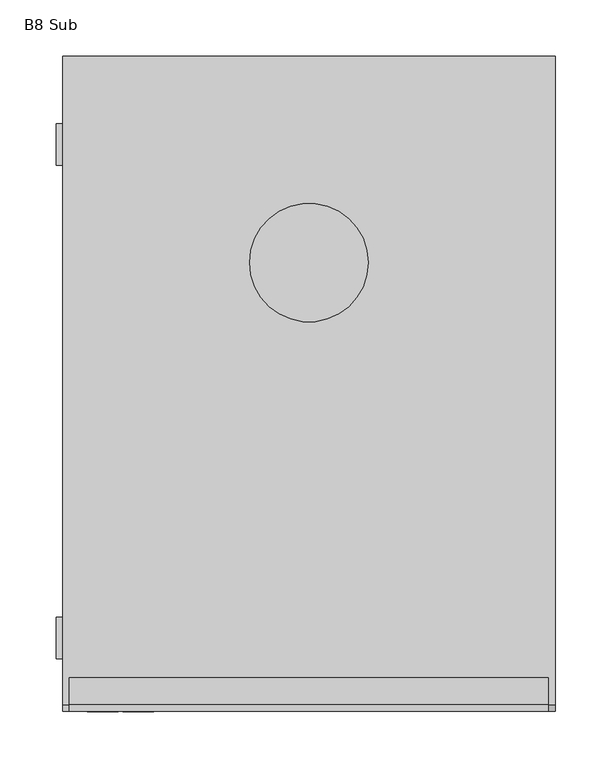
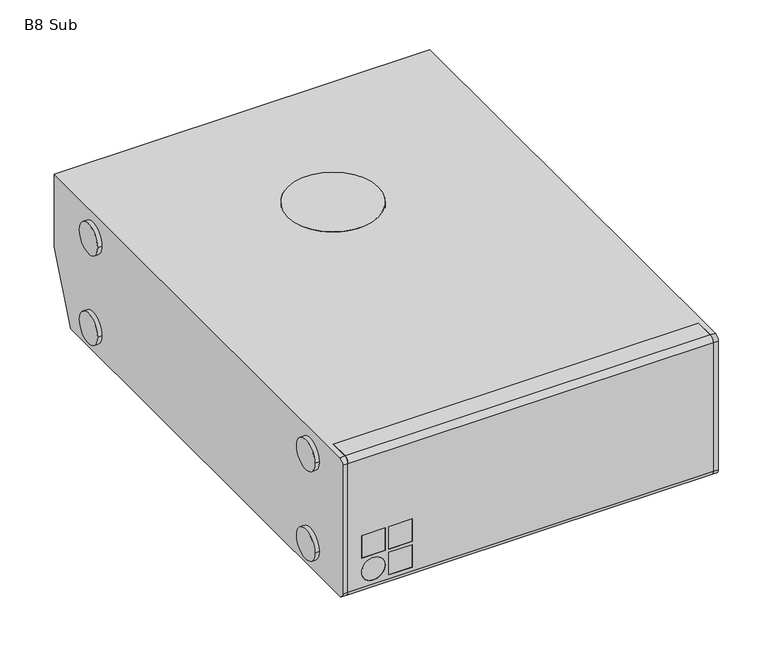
"""IFC4 building model written with IfcOpenShell, lengths in millimetres: proxy geometry, d&b B8 Subwoofer : B8 Sub."""

from ifc_helpers import new_model, si_unit, point, frame, frame_2d, origin, place, context, project, spatial, polyline, circle_curve, ellipse_curve, trimmed, segment, composite_curve, outline, extrude, source, transform, mapped, element, save
from ifc_brep_helpers import plane_surface, cylinder_surface, revolved_surface, advanced_brep


def b8_sub_eabcae69(model_context):
    return source(origin(), model_context, "Body", "SolidModel", [
        advanced_brep(
        [(212.0, -290.0, -76.25), (212.0, -284.0, -82.25), (212.0, -284.0, 87.75), (212.0, -290.0, 81.75), (-212.0, -290.0, -76.25), (-212.0, -290.0, 81.75), (-212.0, -284.0, 87.75), (-212.0, -284.0, -82.25), (-164.8089888, -290.0, -39.7780899), (-164.8089888, -290.0, -12.25), (-137.2808989, -290.0, -12.25), (-137.2808989, -290.0, -39.7780899), (-196.2696629, -290.0, -39.7780899), (-196.2696629, -290.0, -12.25), (-168.741573, -290.0, -12.25), (-168.741573, -290.0, -39.7780899), (-164.8089888, -290.0, -71.238764), (-164.8089888, -290.0, -43.7106742), (-137.2808989, -290.0, -43.7106742), (-137.2808989, -290.0, -71.238764), (-168.741573, -290.0, -57.4747191), (-196.2696629, -290.0, -57.4747191), (-164.8089888, -284.0, -12.25), (-164.8089888, -284.0, -39.7780899), (-137.2808989, -284.0, -39.7780899), (-137.2808989, -284.0, -12.25), (-196.2696629, -284.0, -12.25), (-196.2696629, -284.0, -39.7780899), (-168.741573, -284.0, -39.7780899), (-168.741573, -284.0, -12.25), (-164.8089888, -284.0, -43.7106742), (-164.8089888, -284.0, -71.238764), (-137.2808989, -284.0, -71.238764), (-137.2808989, -284.0, -43.7106742), (-196.2696629, -284.0, -57.4747191), (-168.741573, -284.0, -57.4747191)],
        [
            (0, 1, circle_curve(frame((212.0, -284.0, -76.25), z_axis=(1.0, 0.0, 0.0), x_axis=(0.0, 1.0, 0.0)), 6.0)),
            (1, 2),
            (2, 3, circle_curve(frame((212.0, -284.0, 81.75), z_axis=(1.0, 0.0, 0.0), x_axis=(0.0, 1.0, 0.0)), 6.0)),
            (3, 0),
            (4, 5),
            (5, 6, circle_curve(frame((-212.0, -284.0, 81.75), z_axis=(-1.0, 0.0, 0.0), x_axis=(0.0, 1.0, 0.0)), 6.0)),
            (6, 7),
            (7, 4, circle_curve(frame((-212.0, -284.0, -76.25), z_axis=(-1.0, 0.0, 0.0), x_axis=(0.0, 1.0, 0.0)), 6.0)),
            (3, 5),
            (4, 0),
            (8, 9),
            (9, 10),
            (10, 11),
            (11, 8),
            (12, 13),
            (13, 14),
            (14, 15),
            (15, 12),
            (16, 17),
            (17, 18),
            (18, 19),
            (19, 16),
            (20, 21, circle_curve(frame((-182.505618, -290.0, -57.4747191), z_axis=(0.0, 1.0, 0.0), x_axis=(1.0, 0.0, 0.0)), 13.7640449)),
            (21, 20, circle_curve(frame((-182.505618, -290.0, -57.4747191), z_axis=(0.0, 1.0, 0.0), x_axis=(1.0, 0.0, 0.0)), 13.7640449)),
            (2, 6),
            (7, 1),
            (22, 23),
            (23, 24),
            (24, 25),
            (25, 22),
            (26, 27),
            (27, 28),
            (28, 29),
            (29, 26),
            (30, 31),
            (31, 32),
            (32, 33),
            (33, 30),
            (34, 35, circle_curve(frame((-182.505618, -284.0, -57.4747191), z_axis=(0.0, -1.0, 0.0), x_axis=(1.0, 0.0, 0.0)), 13.7640449)),
            (35, 34, circle_curve(frame((-182.505618, -284.0, -57.4747191), z_axis=(0.0, -1.0, 0.0), x_axis=(1.0, 0.0, 0.0)), 13.7640449)),
            (23, 8),
            (11, 24),
            (10, 25),
            (9, 22),
            (31, 16),
            (19, 32),
            (18, 33),
            (17, 30),
            (12, 27),
            (26, 13),
            (15, 28),
            (14, 29),
            (20, 35),
            (34, 21),
        ],
        [
            plane_surface(frame((212.0, -278.0, -76.25), z_axis=(1.0, 0.0, 0.0), x_axis=(0.0, 0.0, 1.0))),
            plane_surface(frame((-212.0, -278.0, -76.25), z_axis=(-1.0, 0.0, 0.0), x_axis=(0.0, 0.0, -1.0))),
            plane_surface(frame((212.0, -290.0, 81.75), z_axis=(0.0, -1.0, 0.0), x_axis=(-1.0, 0.0, 0.0))),
            cylinder_surface(frame((-212.0, -284.0, 81.75), z_axis=(1.0, 0.0, 0.0), x_axis=(0.0, 1.0, 0.0)), 6.0),
            cylinder_surface(frame((-212.0, -284.0, -76.25), z_axis=(1.0, 0.0, 0.0), x_axis=(0.0, 1.0, 0.0)), 6.0),
            plane_surface(frame((212.0, -284.0, -82.25), z_axis=(0.0, 1.0, 0.0), x_axis=(-1.0, 0.0, 0.0))),
            plane_surface(frame((-164.8089888, -290.0, -39.7780899), z_axis=(0.0, 0.0, 1.0), x_axis=(0.0, 1.0, 0.0))),
            plane_surface(frame((-137.2808989, -290.0, -39.7780899), z_axis=(-1.0, 0.0, 0.0), x_axis=(0.0, 1.0, 0.0))),
            plane_surface(frame((-137.2808989, -290.0, -12.25), z_axis=(0.0, 0.0, -1.0), x_axis=(0.0, 1.0, 0.0))),
            plane_surface(frame((-164.8089888, -290.0, -71.238764), z_axis=(0.0, 0.0, 1.0), x_axis=(0.0, 1.0, 0.0))),
            plane_surface(frame((-137.2808989, -290.0, -71.238764), z_axis=(-1.0, 0.0, 0.0), x_axis=(0.0, 1.0, 0.0))),
            plane_surface(frame((-137.2808989, -290.0, -43.7106742), z_axis=(0.0, 0.0, -1.0), x_axis=(0.0, 1.0, 0.0))),
            plane_surface(frame((-164.8089888, -290.0, -12.25), z_axis=(1.0, 0.0, 0.0), x_axis=(0.0, 1.0, 0.0))),
            plane_surface(frame((-196.2696629, -290.0, -12.25), z_axis=(1.0, 0.0, 0.0), x_axis=(0.0, 1.0, 0.0))),
            plane_surface(frame((-196.2696629, -290.0, -39.7780899), z_axis=(0.0, 0.0, 1.0), x_axis=(0.0, 1.0, 0.0))),
            plane_surface(frame((-168.741573, -290.0, -39.7780899), z_axis=(-1.0, 0.0, 0.0), x_axis=(0.0, 1.0, 0.0))),
            plane_surface(frame((-168.741573, -290.0, -12.25), z_axis=(0.0, 0.0, -1.0), x_axis=(0.0, 1.0, 0.0))),
            plane_surface(frame((-164.8089888, -290.0, -43.7106742), z_axis=(1.0, 0.0, 0.0), x_axis=(0.0, 1.0, 0.0))),
            revolved_surface(polyline([(-168.7415731, -290.0, -57.4747191), (-168.7415731, -284.0, -57.4747191)]), (-182.505618, -290.0, -57.4747191), (0.0, -1.0, 0.0)),
        ],
        [
            (0, [[1, 2, 3, 4]]),
            (1, [[5, 6, 7, 8]]),
            (2, [[-4, 9, -5, 10], [11, 12, 13, 14], [15, 16, 17, 18], [19, 20, 21, 22], [23, 24]]),
            (3, [[-3, 25, -6, -9]]),
            (4, [[-1, -10, -8, 26]]),
            (5, [[-2, -26, -7, -25], [27, 28, 29, 30], [31, 32, 33, 34], [35, 36, 37, 38], [39, 40]]),
            (6, [[41, -14, 42, -28]]),
            (7, [[-42, -13, 43, -29]]),
            (8, [[44, -30, -43, -12]]),
            (9, [[45, -22, 46, -36]]),
            (10, [[-46, -21, 47, -37]]),
            (11, [[48, -38, -47, -20]]),
            (12, [[-41, -27, -44, -11]]),
            (13, [[49, -31, 50, -15]]),
            (14, [[-49, -18, 51, -32]]),
            (15, [[-51, -17, 52, -33]]),
            (16, [[-50, -34, -52, -16]]),
            (17, [[-45, -35, -48, -19]]),
            (18, [[53, -39, 54, -23]]),
            (18, [[-53, -24, -54, -40]]),
        ],
    ),
        extrude(outline(polyline([(-137.2808989, -290.0), (-164.8089888, -290.0), (-164.8089888, -284.0), (-137.2808989, -284.0), (-137.2808989, -290.0)])), frame((0.0, 0.0, -39.7780899), z_axis=(0.0, 0.0, 1.0), x_axis=(1.0, 0.0, 0.0)), (0.0, 0.0, 1.0), 27.5280899),
        extrude(outline(polyline([(-168.741573, -290.0), (-196.2696629, -290.0), (-196.2696629, -284.0), (-168.741573, -284.0), (-168.741573, -290.0)])), frame((0.0, 0.0, -39.7780899), z_axis=(0.0, 0.0, 1.0), x_axis=(1.0, 0.0, 0.0)), (0.0, 0.0, 1.0), 27.5280899),
        extrude(outline(polyline([(-137.2808989, -290.0), (-164.8089888, -290.0), (-164.8089888, -284.0), (-137.2808989, -284.0), (-137.2808989, -290.0)])), frame((0.0, 0.0, -71.238764), z_axis=(0.0, 0.0, 1.0), x_axis=(1.0, 0.0, 0.0)), (0.0, 0.0, 1.0), 27.5280899),
        extrude(outline(composite_curve([segment(trimmed(circle_curve(frame_2d((-57.4747191, -182.505618)), 13.7640449), [point((-57.4747191, -196.2696629))], [point((-57.4747191, -168.741573))], False, "CARTESIAN"), True, "CONTINUOUS"), segment(trimmed(circle_curve(frame_2d((-57.4747191, -182.505618)), 13.7640449), [point((-57.4747191, -168.741573))], [point((-57.4747191, -196.2696629))], False, "CARTESIAN"), True, "CONTINUOUS")], self_intersect=False)), frame((0.0, -290.0, 0.0), z_axis=(0.0, 1.0, 0.0), x_axis=(0.0, 0.0, 1.0)), (0.0, 0.0, 1.0), 6.0),
        extrude(outline(polyline([(212.0, -260.0), (212.0, -284.0), (-212.0, -284.0), (-212.0, -260.0), (212.0, -260.0)])), frame((0.0, 0.0, -82.25), z_axis=(0.0, 0.0, 1.0), x_axis=(1.0, 0.0, 0.0)), (0.0, 0.0, 1.0), 170.0),
        extrude(outline(composite_curve([segment(trimmed(circle_curve(frame_2d((0.0, 107.5)), 52.5), [point((52.5, 107.5))], [point((-52.5, 107.5))], False, "CARTESIAN"), True, "CONTINUOUS"), segment(trimmed(circle_curve(frame_2d((0.0, 107.5)), 52.5), [point((-52.5, 107.5))], [point((52.5, 107.5))], False, "CARTESIAN"), True, "CONTINUOUS")], self_intersect=False)), frame((0.0, 0.0, 77.75), z_axis=(0.0, 0.0, 1.0), x_axis=(1.0, 0.0, 0.0)), (0.0, 0.0, 1.0), 10.0),
        advanced_brep(
        [(212.0, -260.0, -82.25), (-212.0, -260.0, -82.25), (-212.0, -284.0, -82.25), (-218.0, -284.0, -82.25), (-218.0, 257.2738757, -82.25), (218.0, 257.2738757, -82.25), (218.0, -284.0, -82.25), (212.0, -284.0, -82.25), (-218.0, 290.0, -1.25), (-58.4448475, 290.0, -1.25), (-58.4448475, 289.2718385, -3.0522628), (-58.4448475, 270.9729113, -48.3436972), (-46.4448475, 266.1245966, -60.3436972), (45.487267, 266.1245966, -60.3436972), (57.487267, 270.9729113, -48.3436972), (57.487267, 289.2718385, -3.0522628), (57.487267, 290.0, -1.25), (218.0, 290.0, -1.25), (-218.0, 290.0, 87.75), (218.0, 290.0, 87.75), (57.487267, 290.0, 0.6938031), (57.487267, 290.0, 47.4846055), (45.487267, 290.0, 59.4846055), (-46.4448475, 290.0, 59.4846055), (-58.4448475, 290.0, 47.4846055), (-58.4448475, 290.0, 0.6938031), (-212.0, -260.0, 87.75), (212.0, -260.0, 87.75), (212.0, -284.0, 87.75), (218.0, -284.0, 87.75), (-218.0, -284.0, 87.75), (-212.0, -284.0, 87.75), (-52.5, 107.5, 87.75), (52.5, 107.5, 87.75), (-212.0, -290.0, 81.75), (-212.0, -290.0, -76.25), (-218.0, -290.0, -76.25), (-218.0, -290.0, 81.75), (212.0, -290.0, -76.25), (212.0, -290.0, 81.75), (218.0, -290.0, 81.75), (218.0, -290.0, -76.25), (52.5, 107.5, 77.75), (-52.5, 107.5, 77.75), (45.487267, 256.954574, -60.3436972), (-46.4448475, 256.954574, -60.3436972), (-56.6650566, 256.954574, -54.6323637), (55.7074761, 256.954574, -54.6323637), (-46.4448475, 256.954574, 59.4846055), (45.487267, 256.954574, 59.4846055), (51.3483362, 256.954574, 57.9558933), (-52.3059167, 256.954574, 57.9558933), (58.4448475, 256.954574, 57.9558933), (58.4448475, 256.954574, -54.6323637), (58.4448475, 211.6877968, -36.3433986), (58.4448475, 250.7929844, 60.4453371), (-58.4448475, 250.7929844, 60.4453371), (-58.4448475, 256.954574, 57.9558933), (-58.4448475, 211.6877968, -36.3433986), (-58.4448475, 256.954574, -54.6323637), (57.487267, 256.954574, 47.4846055), (57.487267, 256.954574, -48.3436972), (-58.4448475, 256.954574, 47.4846055), (-58.4448475, 256.954574, -48.3436972)],
        [
            (0, 1),
            (1, 2),
            (2, 3),
            (3, 4),
            (4, 5),
            (5, 6),
            (6, 7),
            (7, 0),
            (4, 8),
            (8, 9),
            (9, 10),
            (10, 11),
            (11, 12, ellipse_curve(frame((-46.4448475, 270.9729113, -48.3436972), z_axis=(0.0, -0.9271838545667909, 0.3746065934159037), x_axis=(0.0, 0.37460659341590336, 0.927183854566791)), 12.9424169, 12.0)),
            (12, 13),
            (13, 14, ellipse_curve(frame((45.487267, 270.9729113, -48.3436972), z_axis=(0.0, -0.9271838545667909, 0.3746065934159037), x_axis=(0.0, 0.37460659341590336, 0.927183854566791)), 12.9424169, 12.0)),
            (14, 15),
            (15, 16),
            (16, 17),
            (17, 5),
            (8, 18),
            (18, 19),
            (19, 17),
            (16, 20),
            (20, 21),
            (21, 22, circle_curve(frame((45.487267, 290.0, 47.4846055), z_axis=(0.0, -1.0, 0.0), x_axis=(-1.0, 0.0, 0.0)), 12.0)),
            (22, 23),
            (23, 24, circle_curve(frame((-46.4448475, 290.0, 47.4846055), z_axis=(0.0, -1.0, 0.0), x_axis=(-1.0, 0.0, 0.0)), 12.0)),
            (24, 25),
            (25, 9),
            (26, 27),
            (27, 28),
            (28, 29),
            (29, 19),
            (18, 30),
            (30, 31),
            (31, 26),
            (32, 33, circle_curve(frame((0.0, 107.5, 87.75), z_axis=(0.0, 0.0, -1.0), x_axis=(-1.0, 0.0, 0.0)), 52.5)),
            (33, 32, circle_curve(frame((0.0, 107.5, 87.75), z_axis=(0.0, 0.0, -1.0), x_axis=(-1.0, 0.0, 0.0)), 52.5)),
            (0, 27),
            (26, 1),
            (31, 34, circle_curve(frame((-212.0, -284.0, 81.75), z_axis=(1.0, 0.0, 0.0), x_axis=(0.0, 1.0, 0.0)), 6.0)),
            (34, 35),
            (35, 2, circle_curve(frame((-212.0, -284.0, -76.25), z_axis=(1.0, 0.0, 0.0), x_axis=(0.0, 1.0, 0.0)), 6.0)),
            (3, 36, circle_curve(frame((-218.0, -284.0, -76.25), z_axis=(-1.0, 0.0, 0.0), x_axis=(0.0, 1.0, 0.0)), 6.0)),
            (36, 37),
            (37, 30, circle_curve(frame((-218.0, -284.0, 81.75), z_axis=(-1.0, 0.0, 0.0), x_axis=(0.0, 1.0, 0.0)), 6.0)),
            (34, 37),
            (36, 35),
            (7, 38, circle_curve(frame((212.0, -284.0, -76.25), z_axis=(-1.0, 0.0, 0.0), x_axis=(0.0, 1.0, 0.0)), 6.0)),
            (38, 39),
            (39, 28, circle_curve(frame((212.0, -284.0, 81.75), z_axis=(-1.0, 0.0, 0.0), x_axis=(0.0, 1.0, 0.0)), 6.0)),
            (29, 40, circle_curve(frame((218.0, -284.0, 81.75), z_axis=(1.0, 0.0, 0.0), x_axis=(0.0, 1.0, 0.0)), 6.0)),
            (40, 41),
            (41, 6, circle_curve(frame((218.0, -284.0, -76.25), z_axis=(1.0, 0.0, 0.0), x_axis=(0.0, 1.0, 0.0)), 6.0)),
            (38, 41),
            (40, 39),
            (42, 43, circle_curve(frame((0.0, 107.5, 77.75), z_axis=(0.0, 0.0, 1.0), x_axis=(-1.0, 0.0, 0.0)), 52.5)),
            (43, 42, circle_curve(frame((0.0, 107.5, 77.75), z_axis=(0.0, 0.0, 1.0), x_axis=(-1.0, 0.0, 0.0)), 52.5)),
            (42, 33),
            (32, 43),
            (44, 45),
            (45, 46, circle_curve(frame((-46.4448475, 256.954574, -48.3436972), z_axis=(0.0, 1.0, 0.0), x_axis=(-1.0, 0.0, 0.0)), 12.0)),
            (46, 47),
            (47, 44, circle_curve(frame((45.487267, 256.954574, -48.3436972), z_axis=(0.0, 1.0, 0.0), x_axis=(-1.0, 0.0, 0.0)), 12.0)),
            (48, 49),
            (49, 50, circle_curve(frame((45.487267, 256.954574, 47.4846055), z_axis=(0.0, 1.0, 0.0), x_axis=(-1.0, 0.0, 0.0)), 12.0)),
            (50, 51),
            (51, 48, circle_curve(frame((-46.4448475, 256.954574, 47.4846055), z_axis=(0.0, 1.0, 0.0), x_axis=(-1.0, 0.0, 0.0)), 12.0)),
            (44, 13),
            (12, 45),
            (48, 23),
            (22, 49),
            (52, 53),
            (53, 54),
            (54, 55),
            (55, 52),
            (55, 56),
            (56, 57),
            (57, 51),
            (50, 52),
            (54, 58),
            (58, 56),
            (53, 47),
            (46, 59),
            (59, 58),
            (50, 60, circle_curve(frame((45.487267, 256.954574, 47.4846055), z_axis=(0.0, 1.0, 0.0), x_axis=(-1.0, 0.0, 0.0)), 12.0)),
            (60, 61),
            (61, 47, circle_curve(frame((45.487267, 256.954574, -48.3436972), z_axis=(0.0, 1.0, 0.0), x_axis=(-1.0, 0.0, 0.0)), 12.0)),
            (57, 62),
            (62, 51, circle_curve(frame((-46.4448475, 256.954574, 47.4846055), z_axis=(0.0, 1.0, 0.0), x_axis=(-1.0, 0.0, 0.0)), 12.0)),
            (63, 59),
            (46, 63, circle_curve(frame((-46.4448475, 256.954574, -48.3436972), z_axis=(0.0, 1.0, 0.0), x_axis=(-1.0, 0.0, 0.0)), 12.0)),
            (60, 21),
            (14, 61),
            (11, 63),
            (24, 62),
        ],
        [
            plane_surface(frame((212.0, -260.0, -82.25), z_axis=(0.0, 0.0, -1.0), x_axis=(-1.0, 0.0, 0.0))),
            plane_surface(frame((212.0, 257.2738757, -82.25), z_axis=(0.0, 0.9271838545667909, -0.3746065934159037), x_axis=(-1.0, 0.0, 0.0))),
            plane_surface(frame((212.0, 290.0, -1.25), z_axis=(0.0, 1.0, 0.0), x_axis=(-1.0, 0.0, 0.0))),
            plane_surface(frame((212.0, 290.0, 87.75), z_axis=(0.0, 0.0, 1.0), x_axis=(-1.0, 0.0, 0.0))),
            plane_surface(frame((212.0, -260.0, 87.75), z_axis=(0.0, -1.0, 0.0), x_axis=(-1.0, 0.0, 0.0))),
            plane_surface(frame((-212.0, -278.0, 81.75), z_axis=(1.0, 0.0, 0.0), x_axis=(0.0, 0.0, 1.0))),
            plane_surface(frame((-218.0, -278.0, 81.75), z_axis=(-1.0, 0.0, 0.0), x_axis=(0.0, 0.0, -1.0))),
            plane_surface(frame((-212.0, -290.0, 81.75), z_axis=(0.0, -1.0, 0.0), x_axis=(-1.0, 0.0, 0.0))),
            cylinder_surface(frame((-218.0, -284.0, 81.75), z_axis=(1.0, 0.0, 0.0), x_axis=(0.0, 1.0, 0.0)), 6.0),
            cylinder_surface(frame((-218.0, -284.0, -76.25), z_axis=(1.0, 0.0, 0.0), x_axis=(0.0, 1.0, 0.0)), 6.0),
            plane_surface(frame((212.0, 264.0, 87.75), z_axis=(-1.0, 0.0, 0.0), x_axis=(0.0, 1.0, 0.0))),
            plane_surface(frame((218.0, 264.0, 87.75), z_axis=(1.0, 0.0, 0.0), x_axis=(0.0, -1.0, 0.0))),
            plane_surface(frame((212.0, -290.0, -76.25), z_axis=(0.0, -1.0, 0.0), x_axis=(1.0, 0.0, 0.0))),
            cylinder_surface(frame((218.0, -284.0, -76.25), z_axis=(-1.0, 0.0, 0.0), x_axis=(0.0, 1.0, 0.0)), 6.0),
            cylinder_surface(frame((218.0, -284.0, 81.75), z_axis=(-1.0, 0.0, 0.0), x_axis=(0.0, 1.0, 0.0)), 6.0),
            plane_surface(frame((-52.5, 107.5, 77.75), z_axis=(0.0, 0.0, 1.0), x_axis=(0.0, 1.0, 0.0))),
            revolved_surface(polyline([(-52.5, 107.5, 87.75), (-52.5, 107.5, 77.75)]), (0.0, 107.5, 77.75), (0.0, 0.0, 1.0)),
            plane_surface(frame((33.487267, 256.954574, 47.4846055), z_axis=(0.0, 1.0, 0.0), x_axis=(0.0, 0.0, -1.0))),
            plane_surface(frame((45.487267, 290.0, -60.3436972), z_axis=(0.0, 0.0, 1.0), x_axis=(0.0, -1.0, 0.0))),
            plane_surface(frame((-46.4448475, 290.0, 59.4846055), z_axis=(0.0, 0.0, -1.0), x_axis=(0.0, -1.0, 0.0))),
            plane_surface(frame((58.4448475, 250.7929844, 60.4453371), z_axis=(-1.0000000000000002, 0.0, 0.0), x_axis=(0.0, -0.9271838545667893, 0.3746065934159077))),
            plane_surface(frame((58.4448475, 256.954574, 57.9558933), z_axis=(0.0, -0.3746065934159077, -0.9271838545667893), x_axis=(-1.0, 0.0, 0.0))),
            plane_surface(frame((58.4448475, 250.7929844, 60.4453371), z_axis=(0.0, 0.92718385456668, -0.37460659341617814), x_axis=(-1.0, 0.0, 0.0))),
            plane_surface(frame((58.4448475, 211.6877968, -36.3433986), z_axis=(0.0, 0.3746065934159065, 0.9271838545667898), x_axis=(-1.0, 0.0, 0.0))),
            plane_surface(frame((58.4448475, 256.954574, -54.6323637), z_axis=(0.0, -1.0, 0.0), x_axis=(-1.0, 0.0, 0.0))),
            plane_surface(frame((57.487267, 290.0, 47.4846055), z_axis=(-1.0, 0.0, 0.0), x_axis=(0.0, -1.0, 0.0))),
            revolved_surface(polyline([(33.487267, 275.82122600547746, -48.3436972), (33.487267, 256.954574, -48.3436972)]), (45.487267, 256.954574, -48.3436972), (0.0, 1.0, 0.0)),
            revolved_surface(polyline([(-58.4448475, 275.82122600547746, -48.3436972), (-58.4448475, 256.954574, -48.3436972)]), (-46.4448475, 256.954574, -48.3436972), (0.0, 1.0, 0.0)),
            plane_surface(frame((-58.4448475, 290.0, -48.3436972), z_axis=(1.0, 0.0, 0.0), x_axis=(0.0, -1.0, 0.0))),
            revolved_surface(polyline([(33.487267, 290.0, 47.4846055), (33.487267, 256.954574, 47.4846055)]), (45.487267, 256.954574, 47.4846055), (0.0, 1.0, 0.0)),
            revolved_surface(polyline([(-58.4448475, 290.0, 47.4846055), (-58.4448475, 256.954574, 47.4846055)]), (-46.4448475, 256.954574, 47.4846055), (0.0, 1.0, 0.0)),
        ],
        [
            (0, [[1, 2, 3, 4, 5, 6, 7, 8]]),
            (1, [[9, 10, 11, 12, 13, 14, 15, 16, 17, 18, 19, -5]]),
            (2, [[20, 21, 22, -18, 23, 24, 25, 26, 27, 28, 29, -10]]),
            (3, [[30, 31, 32, 33, -21, 34, 35, 36], [37, 38]]),
            (4, [[-1, 39, -30, 40]]),
            (5, [[41, 42, 43, -2, -40, -36]]),
            (6, [[-34, -20, -9, -4, 44, 45, 46]]),
            (7, [[-42, 47, -45, 48]]),
            (8, [[-41, -35, -46, -47]]),
            (9, [[-43, -48, -44, -3]]),
            (10, [[49, 50, 51, -31, -39, -8]]),
            (11, [[52, 53, 54, -6, -19, -22, -33]]),
            (12, [[-50, 55, -53, 56]]),
            (13, [[-49, -7, -54, -55]]),
            (14, [[-51, -56, -52, -32]]),
            (15, [[57, 58]]),
            (16, [[-57, 59, -37, 60]]),
            (16, [[-58, -60, -38, -59]]),
            (17, [[61, 62, 63, 64]]),
            (17, [[65, 66, 67, 68]]),
            (18, [[-61, 69, -14, 70]]),
            (19, [[-65, 71, -26, 72]]),
            (20, [[73, 74, 75, 76]]),
            (21, [[-76, 77, 78, 79, -67, 80]]),
            (22, [[-75, 81, 82, -77]]),
            (23, [[-74, 83, -63, 84, 85, -81]]),
            (24, [[-73, -80, 86, 87, 88, -83]]),
            (24, [[89, 90, -79]]),
            (24, [[91, -84, 92]]),
            (25, [[93, -24, -23, -17, -16, 94, -87]]),
            (26, [[-69, -64, -88, -94, -15]]),
            (27, [[-70, -13, 95, -92, -62]]),
            (28, [[96, -89, -78, -82, -85, -91, -95, -12, -11, -29, -28]]),
            (29, [[-72, -25, -93, -86, -66]]),
            (30, [[-71, -68, -90, -96, -27]]),
        ],
    ),
        extrude(outline(composite_curve([segment(trimmed(circle_curve(frame_2d((212.0, 57.75)), 18.25), [point((193.75, 57.75))], [point((230.25, 57.75))], False, "CARTESIAN"), True, "CONTINUOUS"), segment(trimmed(circle_curve(frame_2d((212.0, 57.75)), 18.25), [point((230.25, 57.75))], [point((193.75, 57.75))], False, "CARTESIAN"), True, "CONTINUOUS")], self_intersect=False)), frame((-223.5, 0.0, 0.0), z_axis=(1.0, 0.0, 0.0), x_axis=(0.0, 1.0, 0.0)), (0.0, 0.0, 1.0), 5.5),
        extrude(outline(composite_curve([segment(trimmed(circle_curve(frame_2d((212.0, -52.25)), 18.25), [point((193.75, -52.25))], [point((230.25, -52.25))], False, "CARTESIAN"), True, "CONTINUOUS"), segment(trimmed(circle_curve(frame_2d((212.0, -52.25)), 18.25), [point((230.25, -52.25))], [point((193.75, -52.25))], False, "CARTESIAN"), True, "CONTINUOUS")], self_intersect=False)), frame((-223.5, 0.0, 0.0), z_axis=(1.0, 0.0, 0.0), x_axis=(0.0, 1.0, 0.0)), (0.0, 0.0, 1.0), 5.5),
        extrude(outline(composite_curve([segment(trimmed(circle_curve(frame_2d((-225.0, 57.75)), 18.25), [point((-243.25, 57.75))], [point((-206.75, 57.75))], False, "CARTESIAN"), True, "CONTINUOUS"), segment(trimmed(circle_curve(frame_2d((-225.0, 57.75)), 18.25), [point((-206.75, 57.75))], [point((-243.25, 57.75))], False, "CARTESIAN"), True, "CONTINUOUS")], self_intersect=False)), frame((-223.5, 0.0, 0.0), z_axis=(1.0, 0.0, 0.0), x_axis=(0.0, 1.0, 0.0)), (0.0, 0.0, 1.0), 5.5),
        extrude(outline(composite_curve([segment(trimmed(circle_curve(frame_2d((-225.0, -52.25)), 18.25), [point((-243.25, -52.25))], [point((-206.75, -52.25))], False, "CARTESIAN"), True, "CONTINUOUS"), segment(trimmed(circle_curve(frame_2d((-225.0, -52.25)), 18.25), [point((-206.75, -52.25))], [point((-243.25, -52.25))], False, "CARTESIAN"), True, "CONTINUOUS")], self_intersect=False)), frame((-223.5, 0.0, 0.0), z_axis=(1.0, 0.0, 0.0), x_axis=(0.0, 1.0, 0.0)), (0.0, 0.0, 1.0), 5.5),
        advanced_brep(
        [(-58.4448475, 289.2718385, -3.0522628), (-48.4448475, 289.2718385, -3.0522628), (-48.4448475, 270.9729113, -48.3436972), (-46.4448475, 270.1648588, -50.3436972), (45.487267, 270.1648588, -50.3436972), (47.487267, 270.9729113, -48.3436972), (47.487267, 289.2718385, -3.0522628), (57.487267, 289.2718385, -3.0522628), (57.487267, 270.9729113, -48.3436972), (45.487267, 266.1245966, -60.3436972), (-46.4448475, 266.1245966, -60.3436972), (-58.4448475, 270.9729113, -48.3436972), (-48.4448475, 290.0, 0.6938031), (-58.4448475, 290.0, 0.6938031), (-58.4448475, 290.0, 47.4846055), (-46.4448475, 290.0, 59.4846055), (45.487267, 290.0, 59.4846055), (57.487267, 290.0, 47.4846055), (57.487267, 290.0, 0.6938031), (47.487267, 290.0, 0.6938031), (47.487267, 290.0, 47.4846055), (45.487267, 290.0, 49.4846055), (-46.4448475, 290.0, 49.4846055), (-48.4448475, 290.0, 47.4846055), (45.487267, 256.954574, 59.4846055), (-46.4448475, 256.954574, 59.4846055), (-58.4448475, 256.954574, 47.4846055), (-58.4448475, 256.954574, -48.3436972), (-46.4448475, 256.954574, -60.3436972), (45.487267, 256.954574, -60.3436972), (57.487267, 256.954574, -48.3436972), (57.487267, 256.954574, 47.4846055), (45.487267, 256.954574, 49.4846055), (47.487267, 256.954574, 47.4846055), (47.487267, 256.954574, -48.3436972), (45.487267, 256.954574, -50.3436972), (-46.4448475, 256.954574, -50.3436972), (-48.4448475, 256.954574, -48.3436972), (-48.4448475, 256.954574, 47.4846055), (-46.4448475, 256.954574, 49.4846055)],
        [
            (0, 1),
            (1, 2),
            (2, 3, ellipse_curve(frame((-46.4448475, 270.9729113, -48.3436972), z_axis=(0.0, -0.9271838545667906, 0.3746065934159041), x_axis=(0.0, -0.3746065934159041, -0.9271838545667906)), 2.1570695, 2.0)),
            (3, 4),
            (4, 5, ellipse_curve(frame((45.487267, 270.9729113, -48.3436972), z_axis=(0.0, -0.9271838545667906, 0.3746065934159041), x_axis=(0.0, -0.3746065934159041, -0.9271838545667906)), 2.1570695, 2.0)),
            (5, 6),
            (6, 7),
            (7, 8),
            (8, 9, ellipse_curve(frame((45.487267, 270.9729113, -48.3436972), z_axis=(0.0, 0.9271838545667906, -0.3746065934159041), x_axis=(0.0, 0.3746065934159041, 0.9271838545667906)), 12.9424169, 12.0)),
            (9, 10),
            (10, 11, ellipse_curve(frame((-46.4448475, 270.9729113, -48.3436972), z_axis=(0.0, 0.9271838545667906, -0.3746065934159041), x_axis=(0.0, 0.3746065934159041, 0.9271838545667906)), 12.9424169, 12.0)),
            (11, 0),
            (12, 13),
            (13, 14),
            (14, 15, circle_curve(frame((-46.4448475, 290.0, 47.4846055), z_axis=(0.0, 1.0, 0.0), x_axis=(-1.0, 0.0, 0.0)), 12.0)),
            (15, 16),
            (16, 17, circle_curve(frame((45.487267, 290.0, 47.4846055), z_axis=(0.0, 1.0, 0.0), x_axis=(-1.0, 0.0, 0.0)), 12.0)),
            (17, 18),
            (18, 19),
            (19, 20),
            (20, 21, circle_curve(frame((45.487267, 290.0, 47.4846055), z_axis=(0.0, -1.0, 0.0), x_axis=(-1.0, 0.0, 0.0)), 2.0)),
            (21, 22),
            (22, 23, circle_curve(frame((-46.4448475, 290.0, 47.4846055), z_axis=(0.0, -1.0, 0.0), x_axis=(-1.0, 0.0, 0.0)), 2.0)),
            (23, 12),
            (24, 25),
            (25, 26, circle_curve(frame((-46.4448475, 256.954574, 47.4846055), z_axis=(0.0, -1.0, 0.0), x_axis=(-1.0, 0.0, 0.0)), 12.0)),
            (26, 27),
            (27, 28, circle_curve(frame((-46.4448475, 256.954574, -48.3436972), z_axis=(0.0, -1.0, 0.0), x_axis=(-1.0, 0.0, 0.0)), 12.0)),
            (28, 29),
            (29, 30, circle_curve(frame((45.487267, 256.954574, -48.3436972), z_axis=(0.0, -1.0, 0.0), x_axis=(-1.0, 0.0, 0.0)), 12.0)),
            (30, 31),
            (31, 24, circle_curve(frame((45.487267, 256.954574, 47.4846055), z_axis=(0.0, -1.0, 0.0), x_axis=(-1.0, 0.0, 0.0)), 12.0)),
            (32, 33, circle_curve(frame((45.487267, 256.954574, 47.4846055), z_axis=(0.0, 1.0, 0.0), x_axis=(-1.0, 0.0, 0.0)), 2.0)),
            (33, 34),
            (34, 35, circle_curve(frame((45.487267, 256.954574, -48.3436972), z_axis=(0.0, 1.0, 0.0), x_axis=(-1.0, 0.0, 0.0)), 2.0)),
            (35, 36),
            (36, 37, circle_curve(frame((-46.4448475, 256.954574, -48.3436972), z_axis=(0.0, 1.0, 0.0), x_axis=(-1.0, 0.0, 0.0)), 2.0)),
            (37, 38),
            (38, 39, circle_curve(frame((-46.4448475, 256.954574, 47.4846055), z_axis=(0.0, 1.0, 0.0), x_axis=(-1.0, 0.0, 0.0)), 2.0)),
            (39, 32),
            (31, 17),
            (16, 24),
            (30, 8),
            (7, 18, circle_curve(frame((57.487267, 280.0, 0.6938031), z_axis=(1.0, 0.0, 0.0), x_axis=(0.0, 1.0, 0.0)), 10.0)),
            (29, 9),
            (28, 10),
            (27, 11),
            (26, 14),
            (13, 0, circle_curve(frame((-58.4448475, 280.0, 0.6938031), z_axis=(-1.0, 0.0, 0.0), x_axis=(0.0, 1.0, 0.0)), 10.0)),
            (25, 15),
            (39, 22),
            (21, 32),
            (38, 23),
            (37, 2),
            (1, 12, circle_curve(frame((-48.4448475, 280.0, 0.6938031), z_axis=(1.0, 0.0, 0.0), x_axis=(0.0, 1.0, 0.0)), 10.0)),
            (36, 3),
            (35, 4),
            (34, 5),
            (33, 20),
            (19, 6, circle_curve(frame((47.487267, 280.0, 0.6938031), z_axis=(-1.0, 0.0, 0.0), x_axis=(0.0, 1.0, 0.0)), 10.0)),
        ],
        [
            plane_surface(frame((57.487267, 289.2718385, -3.0522628), z_axis=(0.0, 0.9271838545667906, -0.3746065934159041), x_axis=(-1.0, 0.0, 0.0))),
            plane_surface(frame((57.487267, 290.0, 69.4846055), z_axis=(0.0, 1.0, 0.0), x_axis=(-1.0, 0.0, 0.0))),
            plane_surface(frame((33.487267, 256.954574, 47.4846055), z_axis=(0.0, -1.0, 0.0), x_axis=(0.0, 0.0, -1.0))),
            cylinder_surface(frame((45.487267, 256.954574, 47.4846055), z_axis=(0.0, 1.0, 0.0), x_axis=(-1.0, 0.0, 0.0)), 12.0),
            plane_surface(frame((57.487267, 305.0, 47.4846055), z_axis=(1.0, 0.0, 0.0), x_axis=(0.0, -1.0, 0.0))),
            cylinder_surface(frame((45.487267, 256.954574, -48.3436972), z_axis=(0.0, 1.0, 0.0), x_axis=(-1.0, 0.0, 0.0)), 12.0),
            plane_surface(frame((45.487267, 305.0, -60.3436972), z_axis=(0.0, 0.0, -1.0), x_axis=(0.0, -1.0, 0.0))),
            cylinder_surface(frame((-46.4448475, 256.954574, -48.3436972), z_axis=(0.0, 1.0, 0.0), x_axis=(-1.0, 0.0, 0.0)), 12.0),
            plane_surface(frame((-58.4448475, 305.0, -48.3436972), z_axis=(-1.0, 0.0, 0.0), x_axis=(0.0, -1.0, 0.0))),
            cylinder_surface(frame((-46.4448475, 256.954574, 47.4846055), z_axis=(0.0, 1.0, 0.0), x_axis=(-1.0, 0.0, 0.0)), 12.0),
            plane_surface(frame((-46.4448475, 305.0, 59.4846055), z_axis=(0.0, 0.0, 1.0), x_axis=(0.0, -1.0, 0.0))),
            plane_surface(frame((45.487267, 305.0, 49.4846055), z_axis=(0.0, 0.0, -1.0), x_axis=(0.0, -1.0, 0.0))),
            revolved_surface(polyline([(-48.4448475, 256.954574, 47.4846055), (-48.4448475, 290.0, 47.4846055)]), (-46.4448475, 290.0, 47.4846055), (0.0, -1.0, 0.0)),
            plane_surface(frame((-48.4448475, 305.0, 47.4846055), z_axis=(1.0, 0.0, 0.0), x_axis=(0.0, -1.0, 0.0))),
            revolved_surface(polyline([(-48.4448475, 256.954574, -48.3436972), (-48.4448475, 271.78096375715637, -48.3436972)]), (-46.4448475, 290.0, -48.3436972), (0.0, -1.0, 0.0)),
            plane_surface(frame((-46.4448475, 305.0, -50.3436972), z_axis=(0.0, 0.0, 1.0), x_axis=(0.0, -1.0, 0.0))),
            revolved_surface(polyline([(43.487267, 256.954574, -48.3436972), (43.487267, 271.78096375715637, -48.3436972)]), (45.487267, 290.0, -48.3436972), (0.0, -1.0, 0.0)),
            plane_surface(frame((47.487267, 305.0, -48.3436972), z_axis=(-1.0, 0.0, 0.0), x_axis=(0.0, -1.0, 0.0))),
            revolved_surface(polyline([(43.487267, 256.954574, 47.4846055), (43.487267, 290.0, 47.4846055)]), (45.487267, 290.0, 47.4846055), (0.0, -1.0, 0.0)),
            cylinder_surface(frame((-58.4448475, 280.0, 0.6938031), z_axis=(-1.0, 0.0, 0.0), x_axis=(0.0, 1.0, 0.0)), 10.0),
        ],
        [
            (0, [[1, 2, 3, 4, 5, 6, 7, 8, 9, 10, 11, 12]]),
            (1, [[13, 14, 15, 16, 17, 18, 19, 20, 21, 22, 23, 24]]),
            (2, [[25, 26, 27, 28, 29, 30, 31, 32], [33, 34, 35, 36, 37, 38, 39, 40]]),
            (3, [[-32, 41, -17, 42]]),
            (4, [[-31, 43, -8, 44, -18, -41]]),
            (5, [[-30, 45, -9, -43]]),
            (6, [[-29, 46, -10, -45]]),
            (7, [[-28, 47, -11, -46]]),
            (8, [[-27, 48, -14, 49, -12, -47]]),
            (9, [[-26, 50, -15, -48]]),
            (10, [[-25, -42, -16, -50]]),
            (11, [[-40, 51, -22, 52]]),
            (12, [[-39, 53, -23, -51]]),
            (13, [[-38, 54, -2, 55, -24, -53]]),
            (14, [[-37, 56, -3, -54]]),
            (15, [[-36, 57, -4, -56]]),
            (16, [[-35, 58, -5, -57]]),
            (17, [[-34, 59, -20, 60, -6, -58]]),
            (18, [[-33, -52, -21, -59]]),
            (19, [[-1, -49, -13, -55]]),
            (19, [[-7, -60, -19, -44]]),
        ],
    ),
        extrude(outline(composite_curve([segment(polyline([(5.5711551, 47.487267), (28.3316517, 47.487267)]), True, "CONTINUOUS"), segment(trimmed(circle_curve(frame_2d((-521.1097177, -0.4787902)), 551.5311061), [point((28.3316517, 47.487267))], [point((28.3316517, -48.4448475))], False, "CARTESIAN"), True, "CONTINUOUS"), segment(polyline([(28.3316517, -48.4448475), (5.5711551, -48.4448475)]), True, "CONTINUOUS"), segment(trimmed(circle_curve(frame_2d((555.0125245, -0.4787902)), 551.5311061), [point((5.5711551, -48.4448475))], [point((5.5711551, 47.487267))], False, "CARTESIAN"), True, "CONTINUOUS")], self_intersect=False)), frame((0.0, 280.0, 0.0), z_axis=(0.0, 1.0, 0.0), x_axis=(0.0, 0.0, 1.0)), (0.0, 0.0, 1.0), 10.0),
        extrude(outline(composite_curve([segment(trimmed(circle_curve(frame_2d((-177.9771934, 224.9288972)), 18.25), [point((-159.7271934, 224.9288972))], [point((-196.2271934, 224.9288972))], False, "CARTESIAN"), True, "CONTINUOUS"), segment(trimmed(circle_curve(frame_2d((-177.9771934, 224.9288972)), 18.25), [point((-196.2271934, 224.9288972))], [point((-159.7271934, 224.9288972))], False, "CARTESIAN"), True, "CONTINUOUS")], self_intersect=False)), frame((0.0, 0.0, -87.75), z_axis=(0.0, 0.0, 1.0), x_axis=(1.0, 0.0, 0.0)), (0.0, 0.0, 1.0), 5.5),
        extrude(outline(composite_curve([segment(trimmed(circle_curve(frame_2d((177.9771934, 224.9288972)), 18.25), [point((196.2271934, 224.9288972))], [point((159.7271934, 224.9288972))], False, "CARTESIAN"), True, "CONTINUOUS"), segment(trimmed(circle_curve(frame_2d((177.9771934, 224.9288972)), 18.25), [point((159.7271934, 224.9288972))], [point((196.2271934, 224.9288972))], False, "CARTESIAN"), True, "CONTINUOUS")], self_intersect=False)), frame((0.0, 0.0, -87.75), z_axis=(0.0, 0.0, 1.0), x_axis=(1.0, 0.0, 0.0)), (0.0, 0.0, 1.0), 5.5),
        extrude(outline(composite_curve([segment(trimmed(circle_curve(frame_2d((-177.9771934, -212.1163972)), 18.25), [point((-159.7271934, -212.1163972))], [point((-196.2271934, -212.1163972))], False, "CARTESIAN"), True, "CONTINUOUS"), segment(trimmed(circle_curve(frame_2d((-177.9771934, -212.1163972)), 18.25), [point((-196.2271934, -212.1163972))], [point((-159.7271934, -212.1163972))], False, "CARTESIAN"), True, "CONTINUOUS")], self_intersect=False)), frame((0.0, 0.0, -87.75), z_axis=(0.0, 0.0, 1.0), x_axis=(1.0, 0.0, 0.0)), (0.0, 0.0, 1.0), 5.5),
        extrude(outline(composite_curve([segment(trimmed(circle_curve(frame_2d((177.9771934, -212.1163972)), 18.25), [point((196.2271934, -212.1163972))], [point((159.7271934, -212.1163972))], False, "CARTESIAN"), True, "CONTINUOUS"), segment(trimmed(circle_curve(frame_2d((177.9771934, -212.1163972)), 18.25), [point((159.7271934, -212.1163972))], [point((196.2271934, -212.1163972))], False, "CARTESIAN"), True, "CONTINUOUS")], self_intersect=False)), frame((0.0, 0.0, -87.75), z_axis=(0.0, 0.0, 1.0), x_axis=(1.0, 0.0, 0.0)), (0.0, 0.0, 1.0), 5.5),
    ])


if __name__ == "__main__":
    model = new_model("IFC4")
    model_context = context("Model", 3, world=origin())
    ifc_project = project(units=[si_unit("LENGTHUNIT", "METRE", prefix="MILLI")], contexts=[model_context])
    site = spatial("IfcSite", under=ifc_project)
    building = spatial("IfcBuilding", under=site)
    placement = place(None, origin())
    b8_sub_shape = b8_sub_eabcae69(model_context)
    element("IfcBuildingElementProxy", 1, Name="d&b B8 Subwoofer : B8 Sub", ObjectType="d&b B8 Subwoofer : B8 Sub", at=placement, inside=building, context=model_context, shape_type="MappedRepresentation", body=[
        mapped(b8_sub_shape, transform((0.0, 0.0, 0.0), x_axis=(1.0, 0.0, 0.0), y_axis=(0.0, 1.0, 0.0), z_axis=(0.0, 0.0, 1.0))),
    ])
    save(model, "model.ifc")
